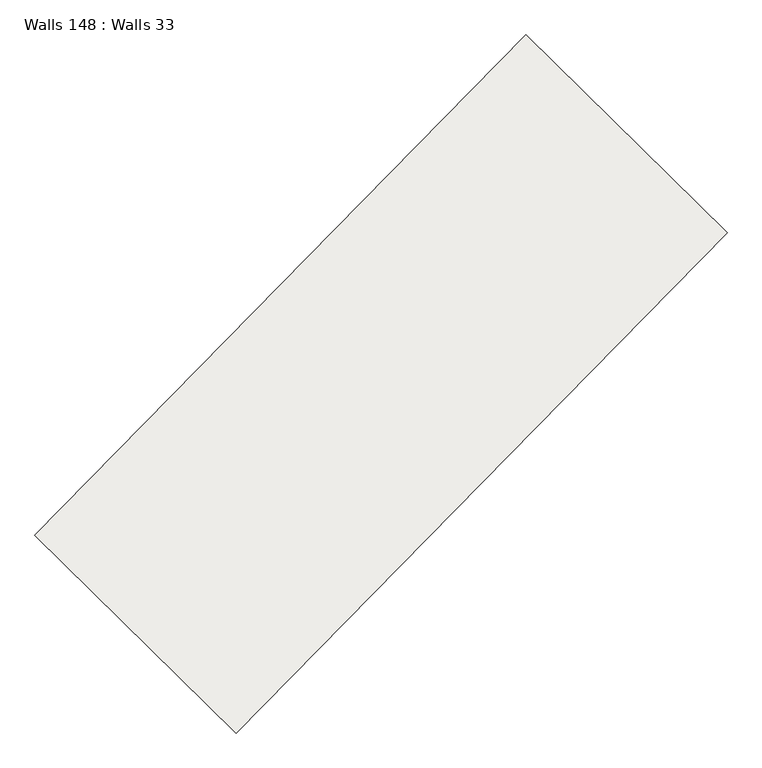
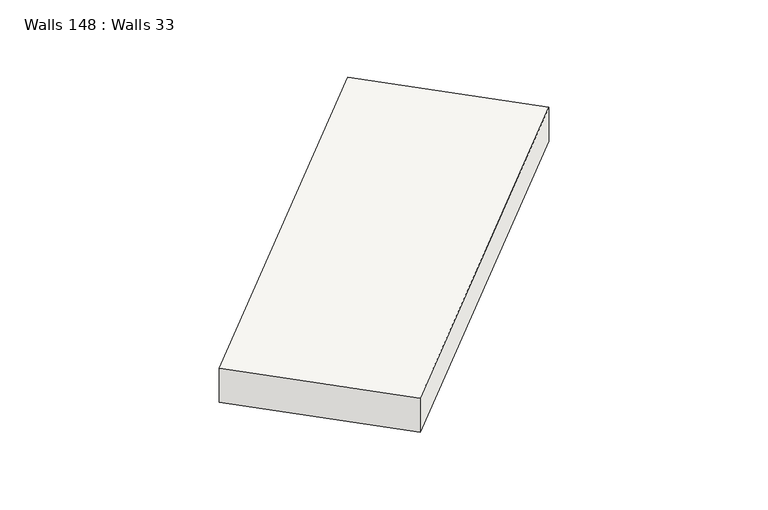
"""IFC4 building model written with IfcOpenShell, lengths in millimetres: slab geometry, Walls 148 : Walls 33."""

from ifc_helpers import new_model, si_unit, frame, origin, place, context, project, spatial, polyline, outline, extrude, source, transform, mapped, element, save


def walls_148_walls_33_5f18fa3a(model_context):
    return source(origin(), model_context, "Body", "SweptSolid", [
        extrude(outline(polyline([(-350.0, 0.0), (350.0, 0.0), (260.0, -8700.0000004), (-440.0, -8700.0000004), (-350.0, 0.0)])), frame((-182830.1581327, -345509.0890349, 635790.0), z_axis=(-0.7136987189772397, 0.7004528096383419, 0.0), x_axis=(0.0, 0.0, 1.0)), (0.0, 0.0, 1.0), 3500.0),
    ])


if __name__ == "__main__":
    model = new_model("IFC4")
    model_context = context("Model", 3, world=origin())
    ifc_project = project(units=[si_unit("LENGTHUNIT", "METRE", prefix="MILLI")], contexts=[model_context])
    site = spatial("IfcSite", under=ifc_project)
    building = spatial("IfcBuilding", under=site)
    placement = place(None, origin())
    walls_148_walls_33_shape = walls_148_walls_33_5f18fa3a(model_context)
    element("IfcSlab", 1, ObjectType="Walls 148 : Walls 33", at=placement, inside=building, context=model_context, shape_type="MappedRepresentation", body=[
        mapped(walls_148_walls_33_shape, transform((0.0, 0.0, 0.0), x_axis=(1.0, 0.0, 0.0), y_axis=(0.0, 1.0, 0.0), z_axis=(0.0, 0.0, 1.0))),
    ])
    save(model, "model.ifc")
